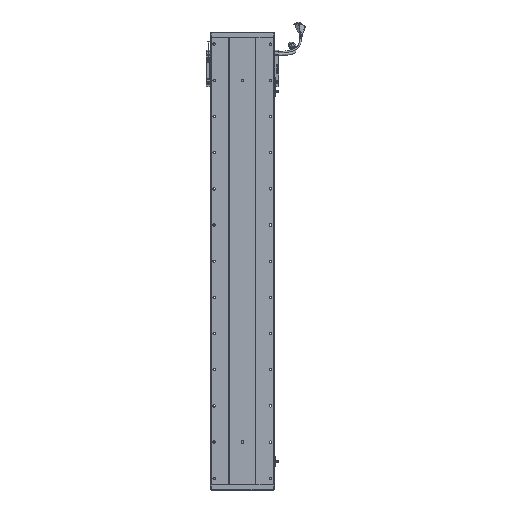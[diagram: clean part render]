
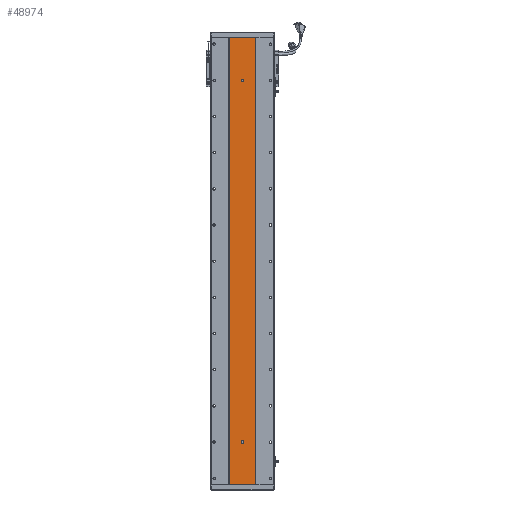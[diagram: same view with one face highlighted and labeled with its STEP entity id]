
A CAD part, front view. The second image highlights one B-rep face of the part: STEP entity #48974.
In plain terms, the highlighted planar face has unit normal (0, -1, 0).
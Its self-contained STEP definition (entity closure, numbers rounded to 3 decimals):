
#164 = PLANE ( 'NONE',  #29555 ) ;
#358 = AXIS2_PLACEMENT_3D ( 'NONE', #76311, #19424, #20901 ) ;
#1322 = AXIS2_PLACEMENT_3D ( 'NONE', #6320, #64109, #28150 ) ;
#3689 = ORIENTED_EDGE ( 'NONE', *, *, #17997, .F. ) ;
#3781 = ORIENTED_EDGE ( 'NONE', *, *, #64059, .F. ) ;
#4200 = CARTESIAN_POINT ( 'NONE',  ( 3280.529, 1415.701, 1121.5 ) ) ;
#4437 = EDGE_CURVE ( 'NONE', #29179, #73514, #21411, .T. ) ;
#5794 = EDGE_CURVE ( 'NONE', #25606, #34991, #19056, .T. ) ;
#6320 = CARTESIAN_POINT ( 'NONE',  ( 3280.529, 1415.701, 120. ) ) ;
#7057 = DIRECTION ( 'NONE',  ( 0., 0., -1. ) ) ;
#8415 = VECTOR ( 'NONE', #78414, 1000. ) ;
#8573 = DIRECTION ( 'NONE',  ( 0., -1., 0. ) ) ;
#8655 = DIRECTION ( 'NONE',  ( 1., 0., 0. ) ) ;
#9493 = EDGE_CURVE ( 'NONE', #73514, #29179, #81649, .T. ) ;
#10253 = FACE_OUTER_BOUND ( 'NONE', #13142, .T. ) ;
#12975 = ORIENTED_EDGE ( 'NONE', *, *, #4437, .F. ) ;
#13142 = EDGE_LOOP ( 'NONE', ( #50691, #54434, #3689, #30957 ) ) ;
#13210 = VERTEX_POINT ( 'NONE', #66211 ) ;
#13490 = CARTESIAN_POINT ( 'NONE',  ( 3244.748, 1415.701, 1237. ) ) ;
#13683 = AXIS2_PLACEMENT_3D ( 'NONE', #65787, #8573, #44154 ) ;
#14551 = VECTOR ( 'NONE', #8655, 1000. ) ;
#17997 = EDGE_CURVE ( 'NONE', #75709, #69339, #25160, .T. ) ;
#19056 = LINE ( 'NONE', #87678, #14551 ) ;
#19424 = DIRECTION ( 'NONE',  ( 0., -1., 0. ) ) ;
#20901 = DIRECTION ( 'NONE',  ( 0., 0., -1. ) ) ;
#21095 = DIRECTION ( 'NONE',  ( 0., 0., 1. ) ) ;
#21411 = CIRCLE ( 'NONE', #44955, 3. ) ;
#21632 = CARTESIAN_POINT ( 'NONE',  ( 3244.748, 1415.701, 1237. ) ) ;
#22437 = CIRCLE ( 'NONE', #13683, 3. ) ;
#25160 = LINE ( 'NONE', #13490, #92214 ) ;
#25606 = VERTEX_POINT ( 'NONE', #60704 ) ;
#25806 = DIRECTION ( 'NONE',  ( 0., 0., -1. ) ) ;
#28150 = DIRECTION ( 'NONE',  ( 0., 0., -1. ) ) ;
#28802 = DIRECTION ( 'NONE',  ( 0., 1., 0. ) ) ;
#29179 = VERTEX_POINT ( 'NONE', #4200 ) ;
#29555 = AXIS2_PLACEMENT_3D ( 'NONE', #21632, #28802, #65116 ) ;
#30957 = ORIENTED_EDGE ( 'NONE', *, *, #61846, .T. ) ;
#31427 = EDGE_CURVE ( 'NONE', #69339, #34991, #71688, .T. ) ;
#32252 = CIRCLE ( 'NONE', #91634, 3. ) ;
#34401 = VECTOR ( 'NONE', #21095, 1000. ) ;
#34991 = VERTEX_POINT ( 'NONE', #42968 ) ;
#35868 = EDGE_LOOP ( 'NONE', ( #79718, #3781, #84805, #91397, #81377 ) ) ;
#35899 = CIRCLE ( 'NONE', #1322, 3. ) ;
#36207 = VERTEX_POINT ( 'NONE', #63517 ) ;
#41093 = DIRECTION ( 'NONE',  ( 0., 0., -1. ) ) ;
#41845 = DIRECTION ( 'NONE',  ( 1., 0., 0. ) ) ;
#41877 = CARTESIAN_POINT ( 'NONE',  ( 3277.529, 1415.701, 120. ) ) ;
#41909 = LINE ( 'NONE', #49924, #8415 ) ;
#42968 = CARTESIAN_POINT ( 'NONE',  ( 3316.311, 1415.701, 0. ) ) ;
#43967 = CARTESIAN_POINT ( 'NONE',  ( 3244.748, 1415.701, 1237. ) ) ;
#44154 = DIRECTION ( 'NONE',  ( 0., 0., -1. ) ) ;
#44506 = VERTEX_POINT ( 'NONE', #57504 ) ;
#44955 = AXIS2_PLACEMENT_3D ( 'NONE', #55525, #85151, #41093 ) ;
#46457 = EDGE_CURVE ( 'NONE', #36207, #44506, #35899, .T. ) ;
#48974 = ADVANCED_FACE ( 'NONE', ( #86216, #54986, #10253 ), #164, .F. ) ;
#49924 = CARTESIAN_POINT ( 'NONE',  ( 3244.748, 1415.701, 1237. ) ) ;
#50261 = VECTOR ( 'NONE', #7057, 1000. ) ;
#50281 = EDGE_CURVE ( 'NONE', #13210, #69956, #32252, .T. ) ;
#50691 = ORIENTED_EDGE ( 'NONE', *, *, #5794, .T. ) ;
#54239 = DIRECTION ( 'NONE',  ( 0., -1., 0. ) ) ;
#54434 = ORIENTED_EDGE ( 'NONE', *, *, #31427, .F. ) ;
#54986 = FACE_BOUND ( 'NONE', #60256, .T. ) ;
#55525 = CARTESIAN_POINT ( 'NONE',  ( 3280.529, 1415.701, 1118.5 ) ) ;
#56649 = EDGE_CURVE ( 'NONE', #56966, #36207, #70268, .T. ) ;
#56966 = VERTEX_POINT ( 'NONE', #74948 ) ;
#57504 = CARTESIAN_POINT ( 'NONE',  ( 3277.529, 1415.701, 120. ) ) ;
#60256 = EDGE_LOOP ( 'NONE', ( #87099, #12975 ) ) ;
#60389 = VECTOR ( 'NONE', #91295, 1000. ) ;
#60704 = CARTESIAN_POINT ( 'NONE',  ( 3244.748, 1415.701, 0. ) ) ;
#61846 = EDGE_CURVE ( 'NONE', #75709, #25606, #41909, .T. ) ;
#63031 = EDGE_CURVE ( 'NONE', #69956, #56966, #22437, .T. ) ;
#63517 = CARTESIAN_POINT ( 'NONE',  ( 3283.529, 1415.701, 120. ) ) ;
#63620 = CARTESIAN_POINT ( 'NONE',  ( 3283.529, 1415.701, 120. ) ) ;
#64059 = EDGE_CURVE ( 'NONE', #44506, #13210, #91689, .T. ) ;
#64109 = DIRECTION ( 'NONE',  ( 0., -1., 0. ) ) ;
#65116 = DIRECTION ( 'NONE',  ( 0., 0., 1. ) ) ;
#65722 = CARTESIAN_POINT ( 'NONE',  ( 3280.529, 1415.701, 114. ) ) ;
#65787 = CARTESIAN_POINT ( 'NONE',  ( 3280.529, 1415.701, 117. ) ) ;
#66211 = CARTESIAN_POINT ( 'NONE',  ( 3277.529, 1415.701, 117. ) ) ;
#69339 = VERTEX_POINT ( 'NONE', #85786 ) ;
#69956 = VERTEX_POINT ( 'NONE', #65722 ) ;
#70268 = LINE ( 'NONE', #63620, #34401 ) ;
#71688 = LINE ( 'NONE', #92653, #50261 ) ;
#73514 = VERTEX_POINT ( 'NONE', #90786 ) ;
#74948 = CARTESIAN_POINT ( 'NONE',  ( 3283.529, 1415.701, 117. ) ) ;
#75709 = VERTEX_POINT ( 'NONE', #43967 ) ;
#76311 = CARTESIAN_POINT ( 'NONE',  ( 3280.529, 1415.701, 1118.5 ) ) ;
#78414 = DIRECTION ( 'NONE',  ( 0., 0., -1. ) ) ;
#79718 = ORIENTED_EDGE ( 'NONE', *, *, #50281, .F. ) ;
#81377 = ORIENTED_EDGE ( 'NONE', *, *, #63031, .F. ) ;
#81649 = CIRCLE ( 'NONE', #358, 3. ) ;
#84805 = ORIENTED_EDGE ( 'NONE', *, *, #46457, .F. ) ;
#85151 = DIRECTION ( 'NONE',  ( 0., -1., 0. ) ) ;
#85786 = CARTESIAN_POINT ( 'NONE',  ( 3316.311, 1415.701, 1237. ) ) ;
#86216 = FACE_BOUND ( 'NONE', #35868, .T. ) ;
#87099 = ORIENTED_EDGE ( 'NONE', *, *, #9493, .F. ) ;
#87678 = CARTESIAN_POINT ( 'NONE',  ( 3244.748, 1415.701, 0. ) ) ;
#90163 = CARTESIAN_POINT ( 'NONE',  ( 3280.529, 1415.701, 117. ) ) ;
#90786 = CARTESIAN_POINT ( 'NONE',  ( 3280.529, 1415.701, 1115.5 ) ) ;
#91295 = DIRECTION ( 'NONE',  ( 0., 0., -1. ) ) ;
#91397 = ORIENTED_EDGE ( 'NONE', *, *, #56649, .F. ) ;
#91634 = AXIS2_PLACEMENT_3D ( 'NONE', #90163, #54239, #25806 ) ;
#91689 = LINE ( 'NONE', #41877, #60389 ) ;
#92214 = VECTOR ( 'NONE', #41845, 1000. ) ;
#92653 = CARTESIAN_POINT ( 'NONE',  ( 3316.311, 1415.701, 1237. ) ) ;
